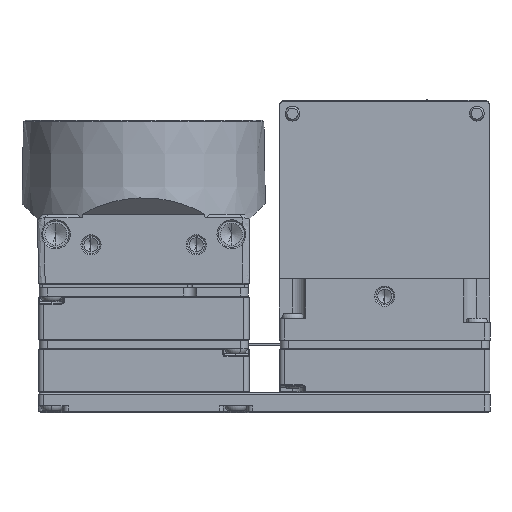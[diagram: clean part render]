
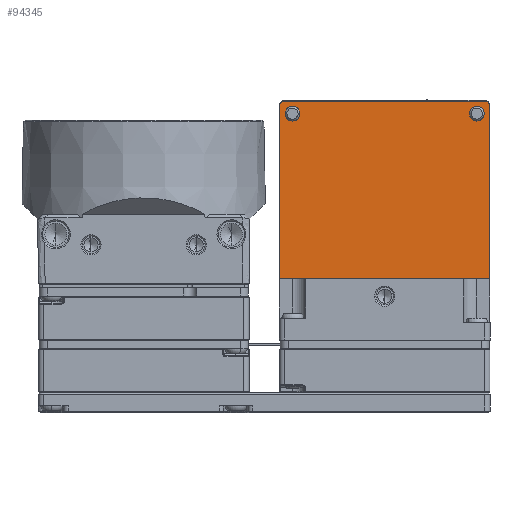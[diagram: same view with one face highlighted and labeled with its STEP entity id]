
A CAD part, front view. The second image highlights one B-rep face of the part: STEP entity #94345.
In plain terms, the highlighted planar face has unit normal (0, -1, 0).
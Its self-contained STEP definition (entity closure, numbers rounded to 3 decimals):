
#4497 = EDGE_CURVE ( 'NONE', #46165, #170233, #174516, .T. ) ;
#5202 = EDGE_LOOP ( 'NONE', ( #59245, #142168 ) ) ;
#8610 = EDGE_CURVE ( 'NONE', #171020, #123440, #108498, .T. ) ;
#10435 = DIRECTION ( 'NONE',  ( 0., -1., 0. ) ) ;
#12567 = PLANE ( 'NONE',  #99123 ) ;
#13455 = CARTESIAN_POINT ( 'NONE',  ( 27.45, 6.5, -2.85 ) ) ;
#15364 = ORIENTED_EDGE ( 'NONE', *, *, #8610, .T. ) ;
#15635 = CARTESIAN_POINT ( 'NONE',  ( 27.45, 6.5, 0.65 ) ) ;
#16018 = DIRECTION ( 'NONE',  ( 0., -1., 0. ) ) ;
#17901 = CARTESIAN_POINT ( 'NONE',  ( 37.95, 6.5, 20.3 ) ) ;
#20270 = DIRECTION ( 'NONE',  ( 0., 0., 1. ) ) ;
#26226 = FACE_OUTER_BOUND ( 'NONE', #34773, .T. ) ;
#26433 = VECTOR ( 'NONE', #45872, 1000. ) ;
#28643 = EDGE_CURVE ( 'NONE', #136762, #123440, #126839, .T. ) ;
#29637 = DIRECTION ( 'NONE',  ( 0., -1., 0. ) ) ;
#30116 = VERTEX_POINT ( 'NONE', #38491 ) ;
#32853 = LINE ( 'NONE', #15635, #162323 ) ;
#34258 = CARTESIAN_POINT ( 'NONE',  ( 16.95, 6.5, 19.45 ) ) ;
#34773 = EDGE_LOOP ( 'NONE', ( #45147, #15364, #35257, #157584, #118341, #71712 ) ) ;
#35257 = ORIENTED_EDGE ( 'NONE', *, *, #28643, .F. ) ;
#38491 = CARTESIAN_POINT ( 'NONE',  ( 37.95, 6.5, 18.6 ) ) ;
#45147 = ORIENTED_EDGE ( 'NONE', *, *, #90841, .F. ) ;
#45872 = DIRECTION ( 'NONE',  ( 0., 0., 1. ) ) ;
#46165 = VERTEX_POINT ( 'NONE', #88467 ) ;
#47110 = EDGE_LOOP ( 'NONE', ( #165977, #163450 ) ) ;
#47733 = DIRECTION ( 'NONE',  ( 0., 0., -1. ) ) ;
#50631 = DIRECTION ( 'NONE',  ( 0., -1., 0. ) ) ;
#57345 = EDGE_CURVE ( 'NONE', #164321, #71759, #148165, .T. ) ;
#58749 = LINE ( 'NONE', #87802, #90414 ) ;
#59245 = ORIENTED_EDGE ( 'NONE', *, *, #175184, .F. ) ;
#61988 = DIRECTION ( 'NONE',  ( 0., 0., 1. ) ) ;
#63272 = CARTESIAN_POINT ( 'NONE',  ( 39.45, 6.5, 20.85 ) ) ;
#64168 = CARTESIAN_POINT ( 'NONE',  ( 16.05, 6.5, 20.25 ) ) ;
#68436 = AXIS2_PLACEMENT_3D ( 'NONE', #170263, #87491, #61988 ) ;
#68993 = DIRECTION ( 'NONE',  ( 0., -1., 0. ) ) ;
#69492 = CARTESIAN_POINT ( 'NONE',  ( 16.95, 6.5, 18.6 ) ) ;
#71712 = ORIENTED_EDGE ( 'NONE', *, *, #4497, .T. ) ;
#71759 = VERTEX_POINT ( 'NONE', #102860 ) ;
#74998 = CIRCLE ( 'NONE', #147535, 0.85 ) ;
#75157 = DIRECTION ( 'NONE',  ( 1., 0., 0. ) ) ;
#78027 = EDGE_CURVE ( 'NONE', #136762, #118406, #32853, .T. ) ;
#78414 = VERTEX_POINT ( 'NONE', #17901 ) ;
#81547 = AXIS2_PLACEMENT_3D ( 'NONE', #86007, #29637, #113313 ) ;
#81720 = FACE_BOUND ( 'NONE', #5202, .T. ) ;
#86007 = CARTESIAN_POINT ( 'NONE',  ( 38.85, 6.5, 20.25 ) ) ;
#86250 = EDGE_CURVE ( 'NONE', #78414, #30116, #100335, .T. ) ;
#87491 = DIRECTION ( 'NONE',  ( 0., -1., 0. ) ) ;
#87802 = CARTESIAN_POINT ( 'NONE',  ( 39.45, 6.5, -3.15 ) ) ;
#88467 = CARTESIAN_POINT ( 'NONE',  ( 39.45, 6.5, 20.25 ) ) ;
#90414 = VECTOR ( 'NONE', #47733, 1000. ) ;
#90841 = EDGE_CURVE ( 'NONE', #171020, #170233, #130600, .T. ) ;
#92316 = DIRECTION ( 'NONE',  ( 0., 0., 1. ) ) ;
#92803 = CARTESIAN_POINT ( 'NONE',  ( 15.45, 6.5, 20.25 ) ) ;
#94345 = ADVANCED_FACE ( 'NONE', ( #81720, #150848, #26226 ), #12567, .T. ) ;
#96934 = AXIS2_PLACEMENT_3D ( 'NONE', #64168, #10435, #92316 ) ;
#99123 = AXIS2_PLACEMENT_3D ( 'NONE', #13455, #68993, #179931 ) ;
#100335 = CIRCLE ( 'NONE', #68436, 0.85 ) ;
#102819 = EDGE_CURVE ( 'NONE', #46165, #118406, #58749, .T. ) ;
#102860 = CARTESIAN_POINT ( 'NONE',  ( 16.95, 6.5, 20.3 ) ) ;
#103693 = CARTESIAN_POINT ( 'NONE',  ( 38.85, 6.5, 20.85 ) ) ;
#107336 = VECTOR ( 'NONE', #75157, 1000. ) ;
#108498 = CIRCLE ( 'NONE', #96934, 0.6 ) ;
#113313 = DIRECTION ( 'NONE',  ( 0., 0., 1. ) ) ;
#118341 = ORIENTED_EDGE ( 'NONE', *, *, #102819, .F. ) ;
#118406 = VERTEX_POINT ( 'NONE', #129399 ) ;
#122401 = CARTESIAN_POINT ( 'NONE',  ( 15.45, 6.5, 0.65 ) ) ;
#122577 = DIRECTION ( 'NONE',  ( 1., 0., 0. ) ) ;
#123440 = VERTEX_POINT ( 'NONE', #92803 ) ;
#124265 = DIRECTION ( 'NONE',  ( 0., 0., 1. ) ) ;
#126602 = EDGE_CURVE ( 'NONE', #71759, #164321, #132394, .T. ) ;
#126839 = LINE ( 'NONE', #156828, #26433 ) ;
#129399 = CARTESIAN_POINT ( 'NONE',  ( 39.45, 6.5, 0.65 ) ) ;
#130600 = LINE ( 'NONE', #63272, #107336 ) ;
#132394 = CIRCLE ( 'NONE', #155662, 0.85 ) ;
#136762 = VERTEX_POINT ( 'NONE', #122401 ) ;
#139751 = CARTESIAN_POINT ( 'NONE',  ( 16.95, 6.5, 19.45 ) ) ;
#142168 = ORIENTED_EDGE ( 'NONE', *, *, #86250, .F. ) ;
#147535 = AXIS2_PLACEMENT_3D ( 'NONE', #173986, #162100, #20270 ) ;
#148165 = CIRCLE ( 'NONE', #151014, 0.85 ) ;
#150848 = FACE_BOUND ( 'NONE', #47110, .T. ) ;
#151014 = AXIS2_PLACEMENT_3D ( 'NONE', #139751, #16018, #124265 ) ;
#155662 = AXIS2_PLACEMENT_3D ( 'NONE', #34258, #50631, #159767 ) ;
#156828 = CARTESIAN_POINT ( 'NONE',  ( 15.45, 6.5, -3.15 ) ) ;
#157584 = ORIENTED_EDGE ( 'NONE', *, *, #78027, .T. ) ;
#159188 = CARTESIAN_POINT ( 'NONE',  ( 16.05, 6.5, 20.85 ) ) ;
#159767 = DIRECTION ( 'NONE',  ( 0., 0., 1. ) ) ;
#162100 = DIRECTION ( 'NONE',  ( 0., -1., 0. ) ) ;
#162323 = VECTOR ( 'NONE', #122577, 1000. ) ;
#163450 = ORIENTED_EDGE ( 'NONE', *, *, #126602, .F. ) ;
#164321 = VERTEX_POINT ( 'NONE', #69492 ) ;
#165977 = ORIENTED_EDGE ( 'NONE', *, *, #57345, .F. ) ;
#170233 = VERTEX_POINT ( 'NONE', #103693 ) ;
#170263 = CARTESIAN_POINT ( 'NONE',  ( 37.95, 6.5, 19.45 ) ) ;
#171020 = VERTEX_POINT ( 'NONE', #159188 ) ;
#173986 = CARTESIAN_POINT ( 'NONE',  ( 37.95, 6.5, 19.45 ) ) ;
#174516 = CIRCLE ( 'NONE', #81547, 0.6 ) ;
#175184 = EDGE_CURVE ( 'NONE', #30116, #78414, #74998, .T. ) ;
#179931 = DIRECTION ( 'NONE',  ( 0., 0., 1. ) ) ;
